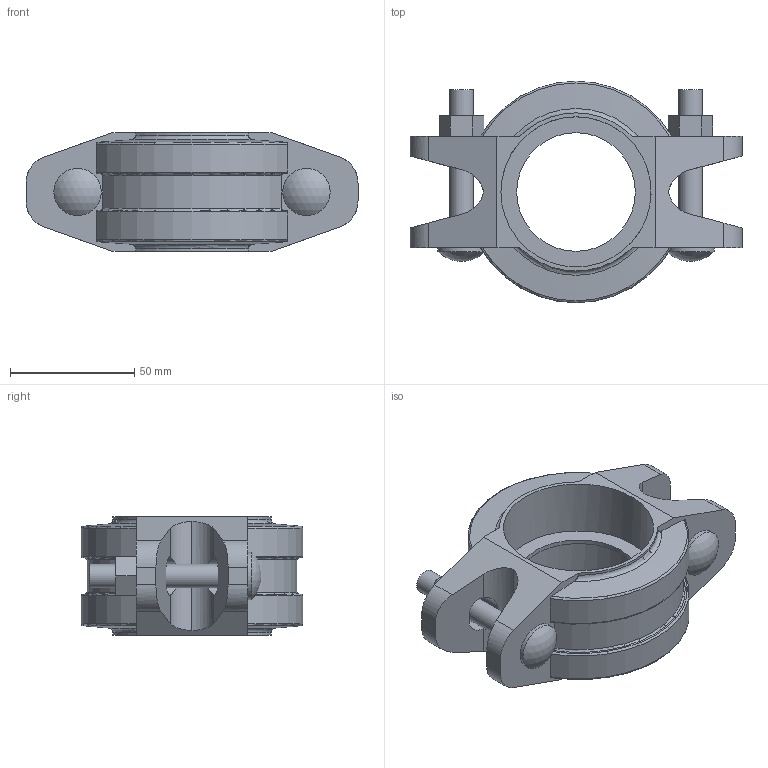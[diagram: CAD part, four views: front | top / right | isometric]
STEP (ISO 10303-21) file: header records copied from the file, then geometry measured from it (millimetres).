
FILE_DESCRIPTION(/* description */ ('VIC STYLE 005H FIRELOCK RIGID COUPLING','CAx-IF Rec.Pracs.---Representation and Presentation of Product Manufacturing Information (PMI)---4.0---2014-10-13'),/* implementation_level */ '2;1');
FILE_NAME(/* name */ 'C:\Users\Vjadhav\Desktop\CAD for Inventor\1\Coupling bolt thickness\005H\STEP\Victaulic_FP-FireLock_Coupling Rigid_Style 005H (OGS)\Victaulic_FP-FireLock_Coupling Rigid_Style 005H (OGS)_2 (50).stp',/* time_stamp */ '2022-03-28T11:24:35+06:00',/* author */ ('jheald'),/* organization */ ('Victaulic'),/* preprocessor_version */ 'ST-DEVELOPER v17.2',/* originating_system */ 'Autodesk Inventor 2019',/* authorisation */ '');
FILE_SCHEMA (('AP242_MANAGED_MODEL_BASED_3D_ENGINEERING_MIM_LF { 1 0 10303 442 1 1 4 }'));
Length unit declared in the file: inch
Products named in the file (1): 005H-02.0
Bounding box: 133.35 x 88.9 x 47.75 mm (x, y, z)
Volume: 174725.2 mm3; surface area: 44170.9 mm2
Topology: 1 solids, 1 shells, 113 faces, 333 edges, 226 vertices
Faces by surface type: plane 52, cylinder 39, torus 16, cone 4, sphere 2
Full cylindrical faces by diameter (mm): 9.525 x4, 19.05 x2, 47.625 x1, 60.325 x2
Entity records: 4372 total; most frequent: CARTESIAN_POINT 1066, ORIENTED_EDGE 666, DIRECTION 653, EDGE_CURVE 333, AXIS2_PLACEMENT_3D 241, VERTEX_POINT 226, LINE 171, VECTOR 171
